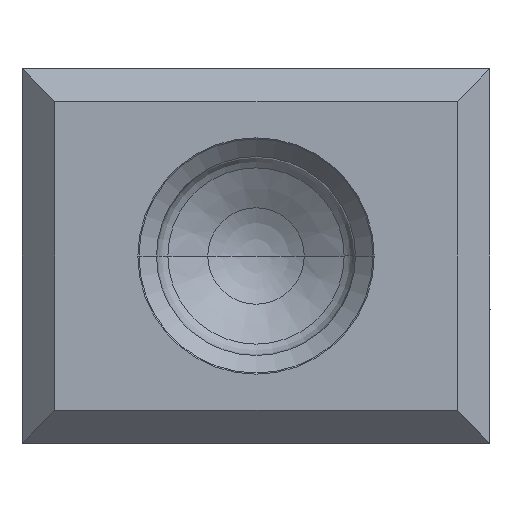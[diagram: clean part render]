
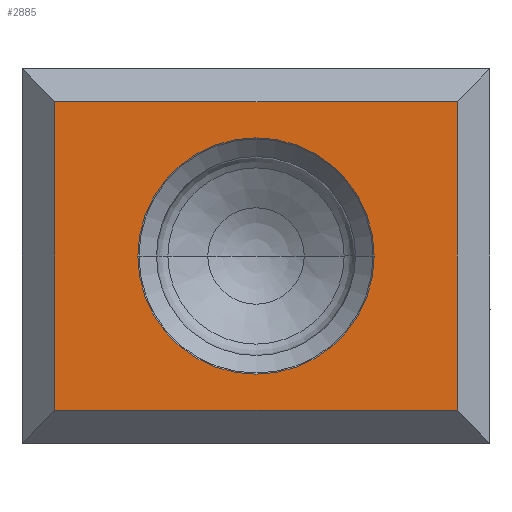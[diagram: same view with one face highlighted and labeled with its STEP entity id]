
A CAD part, left-side view. The second image highlights one B-rep face of the part: STEP entity #2885.
In plain terms, the highlighted planar face has unit normal (-1, 0, 0).
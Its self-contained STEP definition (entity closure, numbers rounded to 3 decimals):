
#575=DIRECTION('',(0.,1.,0.));
#576=VECTOR('',#575,8.6);
#577=CARTESIAN_POINT('',(-22.,0.7,3.3));
#578=LINE('',#577,#576);
#583=DIRECTION('',(0.,0.,-1.));
#584=VECTOR('',#583,6.6);
#585=CARTESIAN_POINT('',(-22.,0.7,3.3));
#586=LINE('',#585,#584);
#587=DIRECTION('',(0.,1.,0.));
#588=VECTOR('',#587,8.6);
#589=CARTESIAN_POINT('',(-22.,0.7,-3.3));
#590=LINE('',#589,#588);
#591=CARTESIAN_POINT('',(-22.,5.,0.));
#592=DIRECTION('',(-1.,0.,0.));
#593=DIRECTION('',(0.,1.,0.));
#594=AXIS2_PLACEMENT_3D('',#591,#592,#593);
#596=CARTESIAN_POINT('',(-22.,5.,0.));
#597=DIRECTION('',(-1.,0.,0.));
#598=DIRECTION('',(0.,-1.,0.));
#599=AXIS2_PLACEMENT_3D('',#596,#597,#598);
#1011=DIRECTION('',(0.,0.,-1.));
#1012=VECTOR('',#1011,6.6);
#1013=CARTESIAN_POINT('',(-22.,9.3,3.3));
#1014=LINE('',#1013,#1012);
#1505=CARTESIAN_POINT('',(-22.,0.7,3.3));
#1506=CARTESIAN_POINT('',(-22.,9.3,3.3));
#1507=VERTEX_POINT('',#1505);
#1508=VERTEX_POINT('',#1506);
#1509=CARTESIAN_POINT('',(-22.,0.7,-3.3));
#1510=VERTEX_POINT('',#1509);
#1511=CARTESIAN_POINT('',(-22.,9.3,-3.3));
#1512=VERTEX_POINT('',#1511);
#1513=CARTESIAN_POINT('',(-22.,7.525,0.));
#1514=CARTESIAN_POINT('',(-22.,2.475,0.));
#1515=VERTEX_POINT('',#1513);
#1516=VERTEX_POINT('',#1514);
#2865=CARTESIAN_POINT('',(-22.,10.25,-5.25));
#2866=DIRECTION('',(-1.,0.,0.));
#2867=DIRECTION('',(0.,-1.,0.));
#2868=AXIS2_PLACEMENT_3D('',#2865,#2866,#2867);
#2869=PLANE('',#2868);
#2871=ORIENTED_EDGE('',*,*,#2870,.T.);
#2873=ORIENTED_EDGE('',*,*,#2872,.T.);
#2875=ORIENTED_EDGE('',*,*,#2874,.F.);
#2876=ORIENTED_EDGE('',*,*,#2855,.F.);
#2877=EDGE_LOOP('',(#2871,#2873,#2875,#2876));
#2878=FACE_OUTER_BOUND('',#2877,.F.);
#2880=ORIENTED_EDGE('',*,*,#2879,.T.);
#2882=ORIENTED_EDGE('',*,*,#2881,.T.);
#2883=EDGE_LOOP('',(#2880,#2882));
#2884=FACE_BOUND('',#2883,.F.);
#2885=ADVANCED_FACE('',(#2878,#2884),#2869,.T.);
#595=CIRCLE('',#594,2.525);
#600=CIRCLE('',#599,2.525);
#2855=EDGE_CURVE('',#1507,#1508,#578,.T.);
#2870=EDGE_CURVE('',#1507,#1510,#586,.T.);
#2872=EDGE_CURVE('',#1510,#1512,#590,.T.);
#2874=EDGE_CURVE('',#1508,#1512,#1014,.T.);
#2879=EDGE_CURVE('',#1515,#1516,#595,.T.);
#2881=EDGE_CURVE('',#1516,#1515,#600,.T.);
